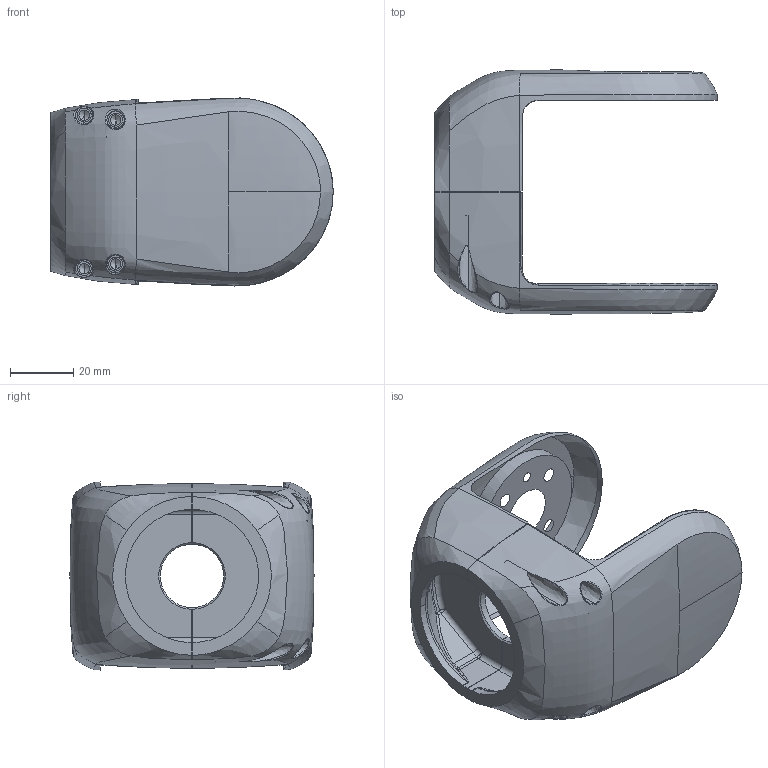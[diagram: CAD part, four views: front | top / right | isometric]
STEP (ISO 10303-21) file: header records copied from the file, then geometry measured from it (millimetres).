
FILE_DESCRIPTION (( 'STEP AP214' ), '1' );
FILE_NAME ('shouwanjinhua2.STEP', '2026-03-30T06:05:28', ( 'Opium' ), ( 'YC.TEC' ), 'SwSTEP 2.0', 'SolidWorks 2023', '' );
FILE_SCHEMA (( 'AUTOMOTIVE_DESIGN' ));
Length unit declared in the file: millimetre
Products named in the file (1): shouwanjinhua2
Bounding box: 88.94 x 76.87 x 59.25 mm (x, y, z)
Surface area: 22534.6 mm2 (no closed solid volume)
Topology: 0 solids, 4 shells, 166 faces, 540 edges, 368 vertices
Faces by surface type: bspline 57, cylinder 49, plane 21, torus 18, cone 13, sphere 8
Entity records: 21323 total; most frequent: CARTESIAN_POINT 17170, ORIENTED_EDGE 924, DIRECTION 709, EDGE_CURVE 528, VERTEX_POINT 368, AXIS2_PLACEMENT_3D 288, B_SPLINE_CURVE_WITH_KNOTS 208, EDGE_LOOP 184
